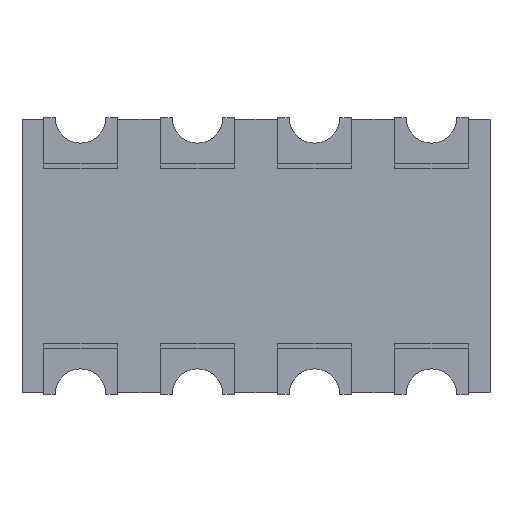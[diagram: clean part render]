
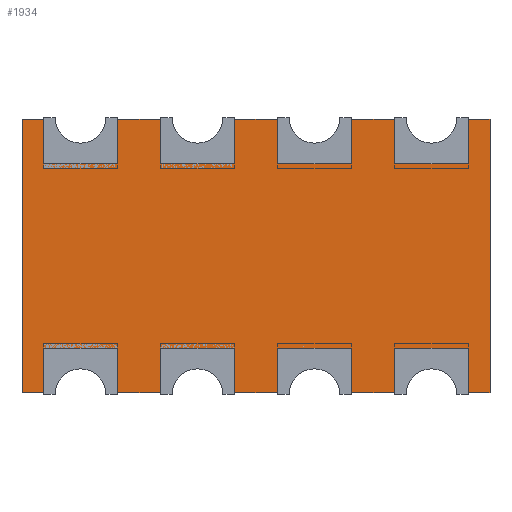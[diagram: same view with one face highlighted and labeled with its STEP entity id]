
A CAD part, front view. The second image highlights one B-rep face of the part: STEP entity #1934.
In plain terms, the highlighted planar face has unit normal (0, -1, 0).
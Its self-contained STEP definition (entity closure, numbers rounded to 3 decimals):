
#23=CIRCLE('',#2034,0.275);
#25=CIRCLE('',#2038,0.275);
#27=CIRCLE('',#2042,0.275);
#29=CIRCLE('',#2046,0.275);
#31=CIRCLE('',#2052,0.275);
#33=CIRCLE('',#2056,0.275);
#35=CIRCLE('',#2060,0.275);
#37=CIRCLE('',#2064,0.275);
#92=FACE_OUTER_BOUND('',#200,.T.);
#200=EDGE_LOOP('',(#1291,#1292,#1293,#1294,#1295,#1296,#1297,#1298,#1299,
#1300,#1301,#1302,#1303,#1304,#1305,#1306,#1307,#1308,#1309,#1310));
#287=LINE('',#2690,#519);
#292=LINE('',#2704,#524);
#296=LINE('',#2716,#528);
#300=LINE('',#2728,#532);
#304=LINE('',#2740,#536);
#307=LINE('',#2746,#539);
#310=LINE('',#2752,#542);
#314=LINE('',#2764,#546);
#318=LINE('',#2776,#550);
#322=LINE('',#2788,#554);
#326=LINE('',#2800,#558);
#329=LINE('',#2805,#561);
#519=VECTOR('',#2176,0.36);
#524=VECTOR('',#2189,0.72);
#528=VECTOR('',#2201,0.72);
#532=VECTOR('',#2213,0.72);
#536=VECTOR('',#2225,0.36);
#539=VECTOR('',#2230,2.972);
#542=VECTOR('',#2235,0.36);
#546=VECTOR('',#2247,0.72);
#550=VECTOR('',#2259,0.72);
#554=VECTOR('',#2271,0.72);
#558=VECTOR('',#2283,0.36);
#561=VECTOR('',#2288,2.972);
#751=VERTEX_POINT('',#2688);
#752=VERTEX_POINT('',#2689);
#755=VERTEX_POINT('',#2697);
#757=VERTEX_POINT('',#2703);
#759=VERTEX_POINT('',#2709);
#761=VERTEX_POINT('',#2715);
#763=VERTEX_POINT('',#2721);
#765=VERTEX_POINT('',#2727);
#767=VERTEX_POINT('',#2733);
#769=VERTEX_POINT('',#2739);
#771=VERTEX_POINT('',#2745);
#773=VERTEX_POINT('',#2751);
#775=VERTEX_POINT('',#2757);
#777=VERTEX_POINT('',#2763);
#779=VERTEX_POINT('',#2769);
#781=VERTEX_POINT('',#2775);
#783=VERTEX_POINT('',#2781);
#785=VERTEX_POINT('',#2787);
#787=VERTEX_POINT('',#2793);
#789=VERTEX_POINT('',#2799);
#927=EDGE_CURVE('',#751,#752,#287,.T.);
#931=EDGE_CURVE('',#755,#751,#23,.T.);
#934=EDGE_CURVE('',#757,#755,#292,.T.);
#937=EDGE_CURVE('',#759,#757,#25,.T.);
#940=EDGE_CURVE('',#761,#759,#296,.T.);
#943=EDGE_CURVE('',#763,#761,#27,.T.);
#946=EDGE_CURVE('',#765,#763,#300,.T.);
#949=EDGE_CURVE('',#767,#765,#29,.T.);
#952=EDGE_CURVE('',#769,#767,#304,.T.);
#955=EDGE_CURVE('',#771,#769,#307,.T.);
#958=EDGE_CURVE('',#773,#771,#310,.T.);
#961=EDGE_CURVE('',#775,#773,#31,.T.);
#964=EDGE_CURVE('',#777,#775,#314,.T.);
#967=EDGE_CURVE('',#779,#777,#33,.T.);
#970=EDGE_CURVE('',#781,#779,#318,.T.);
#973=EDGE_CURVE('',#783,#781,#35,.T.);
#976=EDGE_CURVE('',#785,#783,#322,.T.);
#979=EDGE_CURVE('',#787,#785,#37,.T.);
#982=EDGE_CURVE('',#789,#787,#326,.T.);
#985=EDGE_CURVE('',#752,#789,#329,.T.);
#1291=ORIENTED_EDGE('',*,*,#985,.F.);
#1292=ORIENTED_EDGE('',*,*,#927,.F.);
#1293=ORIENTED_EDGE('',*,*,#931,.F.);
#1294=ORIENTED_EDGE('',*,*,#934,.F.);
#1295=ORIENTED_EDGE('',*,*,#937,.F.);
#1296=ORIENTED_EDGE('',*,*,#940,.F.);
#1297=ORIENTED_EDGE('',*,*,#943,.F.);
#1298=ORIENTED_EDGE('',*,*,#946,.F.);
#1299=ORIENTED_EDGE('',*,*,#949,.F.);
#1300=ORIENTED_EDGE('',*,*,#952,.F.);
#1301=ORIENTED_EDGE('',*,*,#955,.F.);
#1302=ORIENTED_EDGE('',*,*,#958,.F.);
#1303=ORIENTED_EDGE('',*,*,#961,.F.);
#1304=ORIENTED_EDGE('',*,*,#964,.F.);
#1305=ORIENTED_EDGE('',*,*,#967,.F.);
#1306=ORIENTED_EDGE('',*,*,#970,.F.);
#1307=ORIENTED_EDGE('',*,*,#973,.F.);
#1308=ORIENTED_EDGE('',*,*,#976,.F.);
#1309=ORIENTED_EDGE('',*,*,#979,.F.);
#1310=ORIENTED_EDGE('',*,*,#982,.F.);
#1732=PLANE('',#2069);
#1934=ADVANCED_FACE('',(#92),#1732,.F.);
#2034=AXIS2_PLACEMENT_3D('',#2698,#2182,#2183);
#2038=AXIS2_PLACEMENT_3D('',#2710,#2194,#2195);
#2042=AXIS2_PLACEMENT_3D('',#2722,#2206,#2207);
#2046=AXIS2_PLACEMENT_3D('',#2734,#2218,#2219);
#2052=AXIS2_PLACEMENT_3D('',#2758,#2240,#2241);
#2056=AXIS2_PLACEMENT_3D('',#2770,#2252,#2253);
#2060=AXIS2_PLACEMENT_3D('',#2782,#2264,#2265);
#2064=AXIS2_PLACEMENT_3D('',#2794,#2276,#2277);
#2069=AXIS2_PLACEMENT_3D('',#2808,#2292,#2293);
#2176=DIRECTION('',(-1.,0.,0.));
#2182=DIRECTION('center_axis',(0.,-1.,0.));
#2183=DIRECTION('ref_axis',(1.,0.,0.));
#2189=DIRECTION('',(-1.,0.,0.));
#2194=DIRECTION('center_axis',(0.,-1.,0.));
#2195=DIRECTION('ref_axis',(1.,0.,0.));
#2201=DIRECTION('',(-1.,0.,0.));
#2206=DIRECTION('center_axis',(0.,-1.,0.));
#2207=DIRECTION('ref_axis',(1.,0.,0.));
#2213=DIRECTION('',(-1.,0.,0.));
#2218=DIRECTION('center_axis',(0.,-1.,0.));
#2219=DIRECTION('ref_axis',(1.,0.,0.));
#2225=DIRECTION('',(-1.,0.,0.));
#2230=DIRECTION('',(0.,0.,-1.));
#2235=DIRECTION('',(1.,0.,0.));
#2240=DIRECTION('center_axis',(0.,-1.,0.));
#2241=DIRECTION('ref_axis',(-1.,0.,0.));
#2247=DIRECTION('',(1.,0.,0.));
#2252=DIRECTION('center_axis',(0.,-1.,0.));
#2253=DIRECTION('ref_axis',(-1.,0.,0.));
#2259=DIRECTION('',(1.,0.,0.));
#2264=DIRECTION('center_axis',(0.,-1.,0.));
#2265=DIRECTION('ref_axis',(-1.,0.,0.));
#2271=DIRECTION('',(1.,0.,0.));
#2276=DIRECTION('center_axis',(0.,-1.,0.));
#2277=DIRECTION('ref_axis',(-1.,0.,0.));
#2283=DIRECTION('',(1.,0.,0.));
#2288=DIRECTION('',(0.,0.,1.));
#2292=DIRECTION('center_axis',(0.,1.,0.));
#2293=DIRECTION('ref_axis',(0.,0.,1.));
#2688=CARTESIAN_POINT('',(0.36,0.,0.));
#2689=CARTESIAN_POINT('',(0.,0.,0.));
#2690=CARTESIAN_POINT('',(0.36,0.,0.));
#2697=CARTESIAN_POINT('',(0.91,0.,0.));
#2698=CARTESIAN_POINT('Origin',(0.635,0.,0.));
#2703=CARTESIAN_POINT('',(1.63,0.,0.));
#2704=CARTESIAN_POINT('',(1.63,0.,0.));
#2709=CARTESIAN_POINT('',(2.18,0.,0.));
#2710=CARTESIAN_POINT('Origin',(1.905,0.,0.));
#2715=CARTESIAN_POINT('',(2.9,0.,0.));
#2716=CARTESIAN_POINT('',(2.9,0.,0.));
#2721=CARTESIAN_POINT('',(3.45,0.,0.));
#2722=CARTESIAN_POINT('Origin',(3.175,0.,0.));
#2727=CARTESIAN_POINT('',(4.17,0.,0.));
#2728=CARTESIAN_POINT('',(4.17,0.,0.));
#2733=CARTESIAN_POINT('',(4.72,0.,0.));
#2734=CARTESIAN_POINT('Origin',(4.445,0.,0.));
#2739=CARTESIAN_POINT('',(5.08,0.,0.));
#2740=CARTESIAN_POINT('',(5.08,0.,0.));
#2745=CARTESIAN_POINT('',(5.08,0.,2.972));
#2746=CARTESIAN_POINT('',(5.08,0.,2.972));
#2751=CARTESIAN_POINT('',(4.72,0.,2.972));
#2752=CARTESIAN_POINT('',(4.72,0.,2.972));
#2757=CARTESIAN_POINT('',(4.17,0.,2.972));
#2758=CARTESIAN_POINT('Origin',(4.445,0.,2.972));
#2763=CARTESIAN_POINT('',(3.45,0.,2.972));
#2764=CARTESIAN_POINT('',(3.45,0.,2.972));
#2769=CARTESIAN_POINT('',(2.9,0.,2.972));
#2770=CARTESIAN_POINT('Origin',(3.175,0.,2.972));
#2775=CARTESIAN_POINT('',(2.18,0.,2.972));
#2776=CARTESIAN_POINT('',(2.18,0.,2.972));
#2781=CARTESIAN_POINT('',(1.63,0.,2.972));
#2782=CARTESIAN_POINT('Origin',(1.905,0.,2.972));
#2787=CARTESIAN_POINT('',(0.91,0.,2.972));
#2788=CARTESIAN_POINT('',(0.91,0.,2.972));
#2793=CARTESIAN_POINT('',(0.36,0.,2.972));
#2794=CARTESIAN_POINT('Origin',(0.635,0.,2.972));
#2799=CARTESIAN_POINT('',(0.,0.,2.972));
#2800=CARTESIAN_POINT('',(0.,0.,2.972));
#2805=CARTESIAN_POINT('',(0.,0.,0.));
#2808=CARTESIAN_POINT('Origin',(2.54,0.,1.486));
